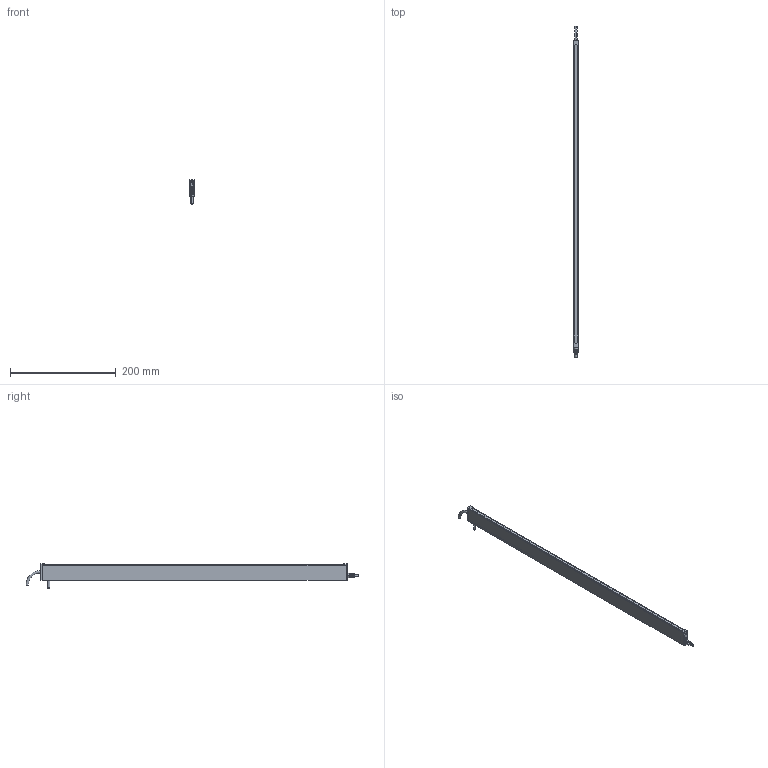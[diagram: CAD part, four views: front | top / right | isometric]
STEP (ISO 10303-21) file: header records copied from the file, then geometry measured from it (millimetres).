
FILE_DESCRIPTION (( 'STEP AP214' ), '1' );
FILE_NAME ('ILG-B-K1-0580mm.STEP', '2017-07-10T12:04:37', ( '' ), ( '' ), 'SwSTEP 2.0', 'SolidWorks 2016', '' );
FILE_SCHEMA (( 'AUTOMOTIVE_DESIGN' ));
Length unit declared in the file: millimetre
Products named in the file (1): ILG-B-K1-0580mm
Bounding box: 9 x 628.25 x 46.21 mm (x, y, z)
Volume: 67752.8 mm3; surface area: 98580.3 mm2
Topology: 10 solids, 10 shells, 444 faces, 1134 edges, 714 vertices
Faces by surface type: plane 213, cylinder 148, cone 71, torus 12
Entity records: 18441 total; most frequent: CARTESIAN_POINT 2505, DIRECTION 2380, ORIENTED_EDGE 2252, EDGE_CURVE 1126, AXIS2_PLACEMENT_3D 877, VERTEX_POINT 714, VECTOR 626, LINE 626
